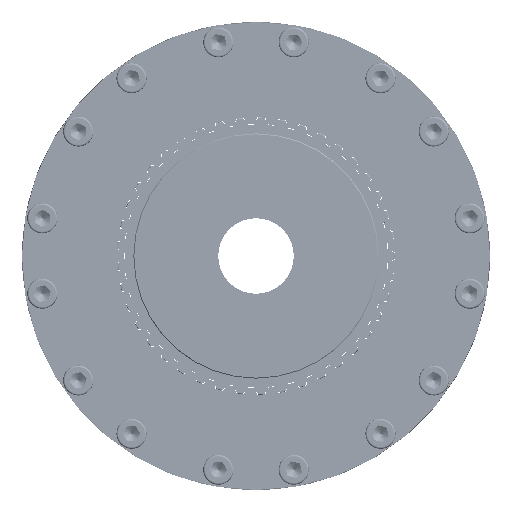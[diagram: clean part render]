
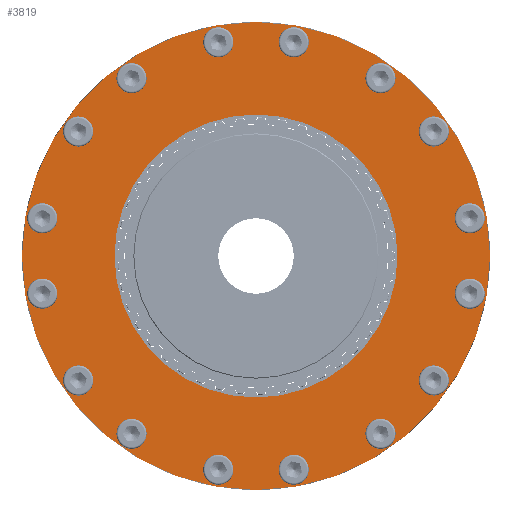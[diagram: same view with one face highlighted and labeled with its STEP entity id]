
A CAD part, left-side view. The second image highlights one B-rep face of the part: STEP entity #3819.
In plain terms, the highlighted planar face has unit normal (-1, 0, 0).
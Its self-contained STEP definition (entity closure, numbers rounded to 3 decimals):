
#160=CARTESIAN_POINT('',(-95.,-14.313,-107.596));
#161=VERTEX_POINT('',#160);
#162=CARTESIAN_POINT('',(-95.,-19.97,-113.253));
#163=DIRECTION('',(1.,0.,0.));
#164=DIRECTION('',(0.,0.707,0.707));
#165=AXIS2_PLACEMENT_3D('',#162,#163,#164);
#166=CIRCLE('',#165,8.);
#167=EDGE_CURVE('',#161,#161,#166,.T.);
#467=CARTESIAN_POINT('',(-95.,65.961,-86.202));
#468=VERTEX_POINT('',#467);
#469=CARTESIAN_POINT('',(-95.,65.961,-94.202));
#470=DIRECTION('',(1.0,0.0,0.0));
#471=DIRECTION('',(0.0,0.0,1.0));
#472=AXIS2_PLACEMENT_3D('',#469,#470,#471);
#473=CIRCLE('',#472,8.);
#474=EDGE_CURVE('',#468,#468,#473,.T.);
#774=CARTESIAN_POINT('',(-95.,107.596,-14.313));
#775=VERTEX_POINT('',#774);
#776=CARTESIAN_POINT('',(-95.,113.253,-19.97));
#777=DIRECTION('',(1.,0.,0.));
#778=DIRECTION('',(0.,-0.707,0.707));
#779=AXIS2_PLACEMENT_3D('',#776,#777,#778);
#780=CIRCLE('',#779,8.);
#781=EDGE_CURVE('',#775,#775,#780,.T.);
#1081=CARTESIAN_POINT('',(-95.,86.202,65.961));
#1082=VERTEX_POINT('',#1081);
#1083=CARTESIAN_POINT('',(-95.,94.202,65.961));
#1084=DIRECTION('',(1.0,0.0,0.0));
#1085=DIRECTION('',(0.0,-1.0,0.0));
#1086=AXIS2_PLACEMENT_3D('',#1083,#1084,#1085);
#1087=CIRCLE('',#1086,8.);
#1088=EDGE_CURVE('',#1082,#1082,#1087,.T.);
#1388=CARTESIAN_POINT('',(-95.,14.313,107.596));
#1389=VERTEX_POINT('',#1388);
#1390=CARTESIAN_POINT('',(-95.,19.97,113.253));
#1391=DIRECTION('',(1.,0.,0.));
#1392=DIRECTION('',(0.,-0.707,-0.707));
#1393=AXIS2_PLACEMENT_3D('',#1390,#1391,#1392);
#1394=CIRCLE('',#1393,8.);
#1395=EDGE_CURVE('',#1389,#1389,#1394,.T.);
#1695=CARTESIAN_POINT('',(-95.,-65.961,86.202));
#1696=VERTEX_POINT('',#1695);
#1697=CARTESIAN_POINT('',(-95.,-65.961,94.202));
#1698=DIRECTION('',(1.0,0.0,0.0));
#1699=DIRECTION('',(0.0,0.0,-1.0));
#1700=AXIS2_PLACEMENT_3D('',#1697,#1698,#1699);
#1701=CIRCLE('',#1700,8.);
#1702=EDGE_CURVE('',#1696,#1696,#1701,.T.);
#2002=CARTESIAN_POINT('',(-95.,-107.596,14.313));
#2003=VERTEX_POINT('',#2002);
#2004=CARTESIAN_POINT('',(-95.,-113.253,19.97));
#2005=DIRECTION('',(1.0,0.,0.));
#2006=DIRECTION('',(0.,0.707,-0.707));
#2007=AXIS2_PLACEMENT_3D('',#2004,#2005,#2006);
#2008=CIRCLE('',#2007,8.);
#2009=EDGE_CURVE('',#2003,#2003,#2008,.T.);
#2309=CARTESIAN_POINT('',(-95.,-86.202,-65.961));
#2310=VERTEX_POINT('',#2309);
#2311=CARTESIAN_POINT('',(-95.,-94.202,-65.961));
#2312=DIRECTION('',(1.0,0.0,0.0));
#2313=DIRECTION('',(0.0,1.0,0.0));
#2314=AXIS2_PLACEMENT_3D('',#2311,#2312,#2313);
#2315=CIRCLE('',#2314,8.);
#2316=EDGE_CURVE('',#2310,#2310,#2315,.T.);
#3680=CARTESIAN_POINT('',(-95.,99.5,0.));
#3681=DIRECTION('',(-1.0,0.0,0.0));
#3682=DIRECTION('',(0.0,0.0,1.0));
#3683=AXIS2_PLACEMENT_3D('',#3680,#3681,#3682);
#3684=PLANE('',#3683);
#3685=CARTESIAN_POINT('',(-95.,124.0,0.));
#3686=VERTEX_POINT('',#3685);
#3687=CARTESIAN_POINT('',(-95.,0.,0.));
#3688=DIRECTION('',(1.0,0.0,0.0));
#3689=DIRECTION('',(0.0,1.0,0.0));
#3690=AXIS2_PLACEMENT_3D('',#3687,#3688,#3689);
#3691=CIRCLE('',#3690,124.0);
#3692=EDGE_CURVE('',#3686,#3686,#3691,.T.);
#3693=ORIENTED_EDGE('',*,*,#3692,.F.);
#3694=EDGE_LOOP('',(#3693));
#3695=FACE_OUTER_BOUND('',#3694,.T.);
#3696=CARTESIAN_POINT('',(-95.,-60.304,-88.546));
#3697=VERTEX_POINT('',#3696);
#3698=CARTESIAN_POINT('',(-95.,-65.961,-94.202));
#3699=DIRECTION('',(1.0,0.,0.));
#3700=DIRECTION('',(0.,0.707,0.707));
#3701=AXIS2_PLACEMENT_3D('',#3698,#3699,#3700);
#3702=CIRCLE('',#3701,8.);
#3703=EDGE_CURVE('',#3697,#3697,#3702,.T.);
#3704=ORIENTED_EDGE('',*,*,#3703,.T.);
#3705=EDGE_LOOP('',(#3704));
#3706=FACE_BOUND('',#3705,.T.);
#3707=ORIENTED_EDGE('',*,*,#167,.T.);
#3708=EDGE_LOOP('',(#3707));
#3709=FACE_BOUND('',#3708,.T.);
#3710=CARTESIAN_POINT('',(-95.,19.97,-105.253));
#3711=VERTEX_POINT('',#3710);
#3712=CARTESIAN_POINT('',(-95.,19.97,-113.253));
#3713=DIRECTION('',(1.0,0.0,0.0));
#3714=DIRECTION('',(0.0,0.0,1.0));
#3715=AXIS2_PLACEMENT_3D('',#3712,#3713,#3714);
#3716=CIRCLE('',#3715,8.);
#3717=EDGE_CURVE('',#3711,#3711,#3716,.T.);
#3718=ORIENTED_EDGE('',*,*,#3717,.T.);
#3719=EDGE_LOOP('',(#3718));
#3720=FACE_BOUND('',#3719,.T.);
#3721=ORIENTED_EDGE('',*,*,#474,.T.);
#3722=EDGE_LOOP('',(#3721));
#3723=FACE_BOUND('',#3722,.T.);
#3724=CARTESIAN_POINT('',(-95.,88.546,-60.304));
#3725=VERTEX_POINT('',#3724);
#3726=CARTESIAN_POINT('',(-95.,94.202,-65.961));
#3727=DIRECTION('',(1.,0.,0.));
#3728=DIRECTION('',(0.,-0.707,0.707));
#3729=AXIS2_PLACEMENT_3D('',#3726,#3727,#3728);
#3730=CIRCLE('',#3729,8.);
#3731=EDGE_CURVE('',#3725,#3725,#3730,.T.);
#3732=ORIENTED_EDGE('',*,*,#3731,.T.);
#3733=EDGE_LOOP('',(#3732));
#3734=FACE_BOUND('',#3733,.T.);
#3735=ORIENTED_EDGE('',*,*,#781,.T.);
#3736=EDGE_LOOP('',(#3735));
#3737=FACE_BOUND('',#3736,.T.);
#3738=CARTESIAN_POINT('',(-95.,105.253,19.97));
#3739=VERTEX_POINT('',#3738);
#3740=CARTESIAN_POINT('',(-95.,113.253,19.97));
#3741=DIRECTION('',(1.0,0.0,0.0));
#3742=DIRECTION('',(0.0,-1.0,0.0));
#3743=AXIS2_PLACEMENT_3D('',#3740,#3741,#3742);
#3744=CIRCLE('',#3743,8.);
#3745=EDGE_CURVE('',#3739,#3739,#3744,.T.);
#3746=ORIENTED_EDGE('',*,*,#3745,.T.);
#3747=EDGE_LOOP('',(#3746));
#3748=FACE_BOUND('',#3747,.T.);
#3749=ORIENTED_EDGE('',*,*,#1088,.T.);
#3750=EDGE_LOOP('',(#3749));
#3751=FACE_BOUND('',#3750,.T.);
#3752=CARTESIAN_POINT('',(-95.,60.304,88.546));
#3753=VERTEX_POINT('',#3752);
#3754=CARTESIAN_POINT('',(-95.,65.961,94.202));
#3755=DIRECTION('',(1.,0.,0.));
#3756=DIRECTION('',(0.,-0.707,-0.707));
#3757=AXIS2_PLACEMENT_3D('',#3754,#3755,#3756);
#3758=CIRCLE('',#3757,8.);
#3759=EDGE_CURVE('',#3753,#3753,#3758,.T.);
#3760=ORIENTED_EDGE('',*,*,#3759,.T.);
#3761=EDGE_LOOP('',(#3760));
#3762=FACE_BOUND('',#3761,.T.);
#3763=ORIENTED_EDGE('',*,*,#1395,.T.);
#3764=EDGE_LOOP('',(#3763));
#3765=FACE_BOUND('',#3764,.T.);
#3766=CARTESIAN_POINT('',(-95.,-19.97,105.253));
#3767=VERTEX_POINT('',#3766);
#3768=CARTESIAN_POINT('',(-95.,-19.97,113.253));
#3769=DIRECTION('',(1.0,0.0,0.0));
#3770=DIRECTION('',(0.0,0.0,-1.0));
#3771=AXIS2_PLACEMENT_3D('',#3768,#3769,#3770);
#3772=CIRCLE('',#3771,8.);
#3773=EDGE_CURVE('',#3767,#3767,#3772,.T.);
#3774=ORIENTED_EDGE('',*,*,#3773,.T.);
#3775=EDGE_LOOP('',(#3774));
#3776=FACE_BOUND('',#3775,.T.);
#3777=ORIENTED_EDGE('',*,*,#1702,.T.);
#3778=EDGE_LOOP('',(#3777));
#3779=FACE_BOUND('',#3778,.T.);
#3780=CARTESIAN_POINT('',(-95.,-88.546,60.304));
#3781=VERTEX_POINT('',#3780);
#3782=CARTESIAN_POINT('',(-95.,-94.202,65.961));
#3783=DIRECTION('',(1.,0.,0.));
#3784=DIRECTION('',(0.,0.707,-0.707));
#3785=AXIS2_PLACEMENT_3D('',#3782,#3783,#3784);
#3786=CIRCLE('',#3785,8.);
#3787=EDGE_CURVE('',#3781,#3781,#3786,.T.);
#3788=ORIENTED_EDGE('',*,*,#3787,.T.);
#3789=EDGE_LOOP('',(#3788));
#3790=FACE_BOUND('',#3789,.T.);
#3791=ORIENTED_EDGE('',*,*,#2009,.T.);
#3792=EDGE_LOOP('',(#3791));
#3793=FACE_BOUND('',#3792,.T.);
#3794=CARTESIAN_POINT('',(-95.,-105.253,-19.97));
#3795=VERTEX_POINT('',#3794);
#3796=CARTESIAN_POINT('',(-95.,-113.253,-19.97));
#3797=DIRECTION('',(1.0,0.0,0.0));
#3798=DIRECTION('',(0.0,1.0,0.0));
#3799=AXIS2_PLACEMENT_3D('',#3796,#3797,#3798);
#3800=CIRCLE('',#3799,8.);
#3801=EDGE_CURVE('',#3795,#3795,#3800,.T.);
#3802=ORIENTED_EDGE('',*,*,#3801,.T.);
#3803=EDGE_LOOP('',(#3802));
#3804=FACE_BOUND('',#3803,.T.);
#3805=ORIENTED_EDGE('',*,*,#2316,.T.);
#3806=EDGE_LOOP('',(#3805));
#3807=FACE_BOUND('',#3806,.T.);
#3808=CARTESIAN_POINT('',(-95.,75.0,0.));
#3809=VERTEX_POINT('',#3808);
#3810=CARTESIAN_POINT('',(-95.,0.,0.));
#3811=DIRECTION('',(1.0,0.0,0.0));
#3812=DIRECTION('',(0.0,1.0,0.0));
#3813=AXIS2_PLACEMENT_3D('',#3810,#3811,#3812);
#3814=CIRCLE('',#3813,75.0);
#3815=EDGE_CURVE('',#3809,#3809,#3814,.T.);
#3816=ORIENTED_EDGE('',*,*,#3815,.T.);
#3817=EDGE_LOOP('',(#3816));
#3818=FACE_BOUND('',#3817,.T.);
#3819=ADVANCED_FACE('',(#3695,#3706,#3709,#3720,#3723,#3734,#3737,#3748,#3751,#3762,#3765,#3776,#3779,#3790,#3793,#3804,#3807,#3818),#3684,.T.);
